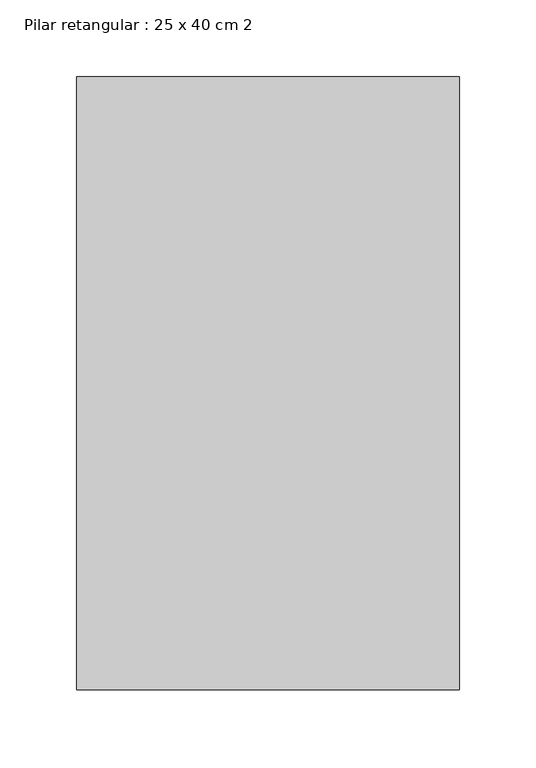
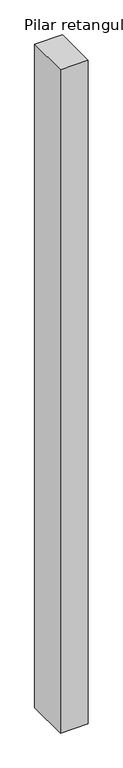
"""IFC4 building model written with IfcOpenShell, lengths in millimetres: column geometry, Pilar retangular : 25 x 40 cm 2."""

import ifcopenshell
import ifcopenshell.guid

model = None  # the IFC model being written
_history = None  # IfcOwnerHistory: only IFC2X3 demands one
_inside = {}  # id of a spatial element -> (the spatial element, [elements in it])
_under = {}  # id of a project, library or spatial element -> (it, [spatial elements below it])
_declared = {}  # id of a project -> (the project, [libraries it declares])
_typed = {}  # id of a type object -> (the type object, [elements of that type])
_made_of = {}  # id of a material, layer set ... -> (it, [elements and type objects made of it])


def new_model(schema):
    """Start an empty IFC model of exactly this schema.

    Asked for "IFC4X3", IfcOpenShell would pick the latest addendum, in which some entities
    have other attributes; the version numbers below select the first issue.
    IFC2X3 requires an IfcOwnerHistory on every rooted entity: one is made here for all.
    """
    global model, _history
    if schema == "IFC4X3":
        model = ifcopenshell.file(schema_version=(4, 3, 0, 0))
    else:
        model = ifcopenshell.file(schema=schema)
    _inside.clear()
    _under.clear()
    _declared.clear()
    _typed.clear()
    _made_of.clear()
    _history = None
    if model.schema == "IFC2X3":
        org = make("IfcOrganization", Name="unknown")
        user = make(
            "IfcPersonAndOrganization",
            ThePerson=make("IfcPerson", FamilyName="unknown"),
            TheOrganization=org,
        )
        app = make(
            "IfcApplication",
            ApplicationDeveloper=org,
            Version="unknown",
            ApplicationFullName="unknown",
            ApplicationIdentifier="unknown",
        )
        _history = make(
            "IfcOwnerHistory",
            OwningUser=user,
            OwningApplication=app,
            ChangeAction="ADDED",
            CreationDate=0,
        )
    return model


def make(cls, **values):
    """One entity of the class cls with the attributes given. An attribute that is None is left unset."""
    return model.create_entity(
        cls, **{name: value for name, value in values.items() if value is not None}
    )


def rooted(cls, **values):
    """An entity with a GlobalId (a new one), such as an element, a storey or a relation."""
    return make(cls, GlobalId=ifcopenshell.guid.new(), OwnerHistory=_history, **values)


def si_unit(unit_type, name, prefix=None):
    """IfcSIUnit, for example si_unit("LENGTHUNIT", "METRE", prefix="MILLI")."""
    return make("IfcSIUnit", UnitType=unit_type, Prefix=prefix, Name=name)


def assignment(units):
    """IfcUnitAssignment: the units of a project."""
    return None if units is None else make("IfcUnitAssignment", Units=units)


def point(xyz):
    """IfcCartesianPoint."""
    return None if xyz is None else make("IfcCartesianPoint", Coordinates=xyz)


def direction(xyz):
    """IfcDirection."""
    return None if xyz is None else make("IfcDirection", DirectionRatios=xyz)


def frame(location, z_axis=None, x_axis=None):
    """IfcAxis2Placement3D, a coordinate frame: its origin and axes. An axis left out is left unset."""
    return make(
        "IfcAxis2Placement3D",
        Location=point(location),
        Axis=direction(z_axis),
        RefDirection=direction(x_axis),
    )


def origin():
    """The frame at (0, 0, 0) with its axes left unset."""
    return frame((0.0, 0.0, 0.0))


def origin_with_axes():
    """The frame at (0, 0, 0) with the z axis (0, 0, 1) and the x axis (1, 0, 0) written out."""
    return frame((0.0, 0.0, 0.0), z_axis=(0.0, 0.0, 1.0), x_axis=(1.0, 0.0, 0.0))


def place(relative_to, where):
    """IfcLocalPlacement: puts the frame where relative to a parent placement (None: the world)."""
    return make(
        "IfcLocalPlacement", PlacementRelTo=relative_to, RelativePlacement=where
    )


def context(
    kind, dimensions, precision=None, world=None, true_north=None, identifier=None
):
    """IfcGeometricRepresentationContext, for example the 3D "Model" context."""
    return make(
        "IfcGeometricRepresentationContext",
        ContextIdentifier=identifier,
        ContextType=kind,
        CoordinateSpaceDimension=dimensions,
        Precision=precision,
        WorldCoordinateSystem=world,
        TrueNorth=true_north,
    )


def project(units=None, contexts=None):
    """IfcProject with its units and contexts."""
    return rooted(
        "IfcProject",
        Name="project",
        RepresentationContexts=contexts,
        UnitsInContext=assignment(units),
    )


def spatial(cls, under=None, at=None, **own):
    """A site, building, storey or space (cls), placed at a placement, below another one or the project."""
    s = rooted(cls, ObjectPlacement=at, **own)
    if under is not None:
        _under.setdefault(under.id(), (under, []))[1].append(s)
    return s


def polyline(points):
    """IfcPolyline through the points."""
    return make("IfcPolyline", Points=[point(p) for p in points])


def outline(outer, holes=None, kind="AREA"):
    """IfcArbitraryClosedProfileDef: a profile drawn as a closed curve; with holes, ...WithVoids."""
    if holes is None:
        return make("IfcArbitraryClosedProfileDef", ProfileType=kind, OuterCurve=outer)
    return make(
        "IfcArbitraryProfileDefWithVoids",
        ProfileType=kind,
        OuterCurve=outer,
        InnerCurves=holes,
    )


def extrude(swept, where, along, depth):
    """IfcExtrudedAreaSolid: the profile swept, set in the frame where, extruded along a direction by depth."""
    return make(
        "IfcExtrudedAreaSolid",
        SweptArea=swept,
        Position=where,
        ExtrudedDirection=direction(along),
        Depth=depth,
    )


def shape(context_of_items, identifier, shape_type, items):
    """IfcShapeRepresentation: the items that make up one representation, for example the "Body"."""
    return make(
        "IfcShapeRepresentation",
        ContextOfItems=context_of_items,
        RepresentationIdentifier=identifier,
        RepresentationType=shape_type,
        Items=items,
    )


def source(mapping_origin, context_of_items, identifier, shape_type, items):
    """IfcRepresentationMap: a shape defined once, which mapped items show again and again."""
    return make(
        "IfcRepresentationMap",
        MappingOrigin=mapping_origin,
        MappedRepresentation=shape(context_of_items, identifier, shape_type, items),
    )


def transform(
    local_origin,
    x_axis=None,
    y_axis=None,
    z_axis=None,
    scale=None,
    scale2=None,
    scale3=None,
    uniform=True,
):
    """IfcCartesianTransformationOperator3D, or its non-uniform kind. x_axis, y_axis, z_axis: its Axis1, 2, 3."""
    if uniform:
        return make(
            "IfcCartesianTransformationOperator3D",
            Axis1=direction(x_axis),
            Axis2=direction(y_axis),
            LocalOrigin=point(local_origin),
            Scale=scale,
            Axis3=direction(z_axis),
        )
    return make(
        "IfcCartesianTransformationOperator3DnonUniform",
        Axis1=direction(x_axis),
        Axis2=direction(y_axis),
        LocalOrigin=point(local_origin),
        Scale=scale,
        Axis3=direction(z_axis),
        Scale2=scale2,
        Scale3=scale3,
    )


def mapped(mapping_source, mapping_target):
    """IfcMappedItem: shows the shape of a source again, moved by a transform."""
    return make(
        "IfcMappedItem", MappingSource=mapping_source, MappingTarget=mapping_target
    )


def made_of(thing, what):
    """Note that an element or type object is made of a material, layer set ...; save() writes the relation."""
    if what is not None:
        _made_of.setdefault(what.id(), (what, []))[1].append(thing)
    return thing


def element(
    cls,
    number,
    at=None,
    inside=None,
    cuts=None,
    type_object=None,
    material=None,
    context=None,
    identifier="Body",
    shape_type=None,
    held_by="IfcProductDefinitionShape",
    body=None,
    shapes=None,
    **own,
):
    """One element of the class cls, such as IfcWall. Its Tag is "e" and its number.

    at: its placement. inside: the storey or other place that contains it. cuts: it is an
    opening in that element (IfcRelVoidsElement). A single representation is given by context,
    identifier, shape_type and body (its items); several are given by shapes. held_by: the class
    of the entity that holds the representations. save() writes the other relations.
    """
    e = rooted(cls, Tag="e%d" % number, ObjectPlacement=at, **own)
    if body is not None:
        shapes = [shape(context, identifier, shape_type, body)]
    if shapes is not None:
        e.Representation = make(held_by, Representations=shapes)
    if inside is not None:
        _inside.setdefault(inside.id(), (inside, []))[1].append(e)
    if cuts is not None:
        rooted(
            "IfcRelVoidsElement", RelatingBuildingElement=cuts, RelatedOpeningElement=e
        )
    if type_object is not None:
        _typed.setdefault(type_object.id(), (type_object, []))[1].append(e)
    return made_of(e, material)


def aggregate(whole, parts):
    """IfcRelAggregates: a whole, such as a stair, and the parts it consists of."""
    return rooted("IfcRelAggregates", RelatingObject=whole, RelatedObjects=parts)


def save(model, path):
    """Write the relations noted so far, then the file.

    IfcRelAggregates (storeys below a building ...), IfcRelContainedInSpatialStructure (elements
    in a storey), IfcRelDefinesByType, IfcRelAssociatesMaterial and IfcRelDeclares: one each for
    every whole, place, type object, material and project.
    """
    for whole, parts in _under.values():
        aggregate(whole, parts)
    for where, things in _inside.values():
        rooted(
            "IfcRelContainedInSpatialStructure",
            RelatedElements=things,
            RelatingStructure=where,
        )
    for kind, things in _typed.values():
        rooted("IfcRelDefinesByType", RelatedObjects=things, RelatingType=kind)
    for what, things in _made_of.values():
        rooted("IfcRelAssociatesMaterial", RelatedObjects=things, RelatingMaterial=what)
    for by, libraries in _declared.values():
        rooted("IfcRelDeclares", RelatingContext=by, RelatedDefinitions=libraries)
    model.write(path)


def pilar_retangular_25_x_40_cm_2_ca77a530(model_context):
    return source(origin(), model_context, "Body", "SweptSolid", [
        extrude(outline(polyline([(125.0, 200.0), (125.0, -200.0), (-125.0, -200.0), (-125.0, 200.0), (125.0, 200.0)])), origin_with_axes(), (0.0, 0.0, 1.0), 6300.0),
    ])


if __name__ == "__main__":
    model = new_model("IFC4")
    model_context = context("Model", 3, world=origin())
    ifc_project = project(units=[si_unit("LENGTHUNIT", "METRE", prefix="MILLI")], contexts=[model_context])
    site = spatial("IfcSite", under=ifc_project)
    building = spatial("IfcBuilding", under=site)
    placement = place(None, origin())
    pilar_retangular_25_x_40_cm_2_shape = pilar_retangular_25_x_40_cm_2_ca77a530(model_context)
    element("IfcColumn", 1, ObjectType="Pilar retangular : 25 x 40 cm 2", at=placement, inside=building, context=model_context, shape_type="MappedRepresentation", body=[
        mapped(pilar_retangular_25_x_40_cm_2_shape, transform((0.0, 0.0, 0.0), x_axis=(1.0, 0.0, 0.0), y_axis=(0.0, 1.0, 0.0), z_axis=(0.0, 0.0, 1.0))),
    ])
    save(model, "model.ifc")
